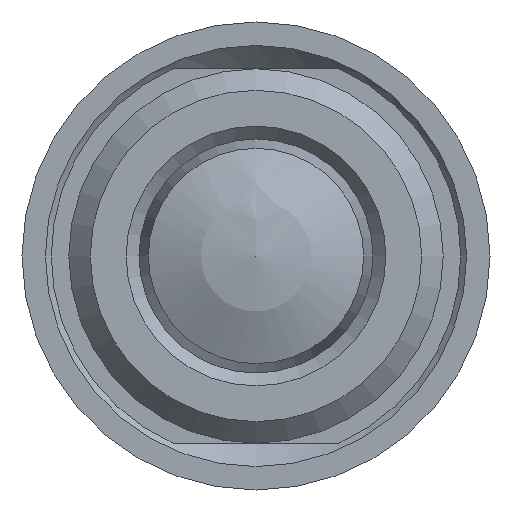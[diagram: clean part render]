
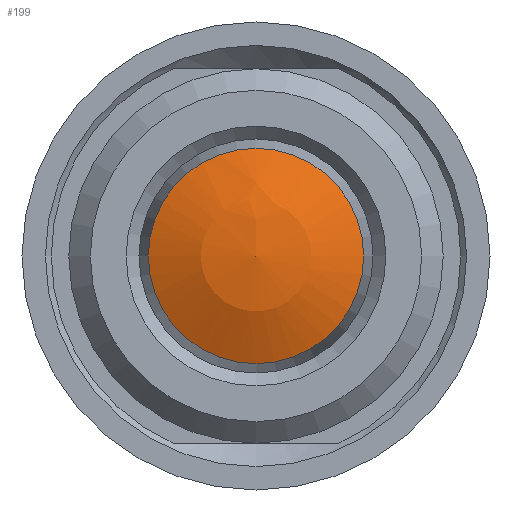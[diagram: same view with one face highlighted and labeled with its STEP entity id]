
A CAD part, left-side view. The second image highlights one B-rep face of the part: STEP entity #199.
In plain terms, the highlighted spherical face has radius 10 mm.
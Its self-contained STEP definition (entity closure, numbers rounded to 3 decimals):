
#199 = ADVANCED_FACE( '', ( #300, #301 ), #302, .T. );
#300 = FACE_BOUND( '', #420, .T. );
#301 = FACE_OUTER_BOUND( '', #421, .T. );
#302 = SPHERICAL_SURFACE( '', #422, 10. );
#420 = VERTEX_LOOP( '', #617 );
#421 = EDGE_LOOP( '', ( #618 ) );
#422 = AXIS2_PLACEMENT_3D( '', #619, #620, #621 );
#617 = VERTEX_POINT( '', #706 );
#618 = ORIENTED_EDGE( '', *, *, #707, .T. );
#619 = CARTESIAN_POINT( '', ( 34.5, 0., 0. ) );
#620 = DIRECTION( '', ( 1., 0., 0. ) );
#621 = DIRECTION( '', ( 0., -1., 0. ) );
#706 = CARTESIAN_POINT( '', ( 44.5, 0., 0. ) );
#707 = EDGE_CURVE( '', #790, #790, #791, .T. );
#790 = VERTEX_POINT( '', #1163 );
#791 = CIRCLE( '', #1164, 4.6 );
#1163 = CARTESIAN_POINT( '', ( 43.379, 0., -4.6 ) );
#1164 = AXIS2_PLACEMENT_3D( '', #1316, #1317, #1318 );
#1316 = CARTESIAN_POINT( '', ( 43.379, 0., 0. ) );
#1317 = DIRECTION( '', ( 1., 0., 0. ) );
#1318 = DIRECTION( '', ( 0., 0., -1. ) );
